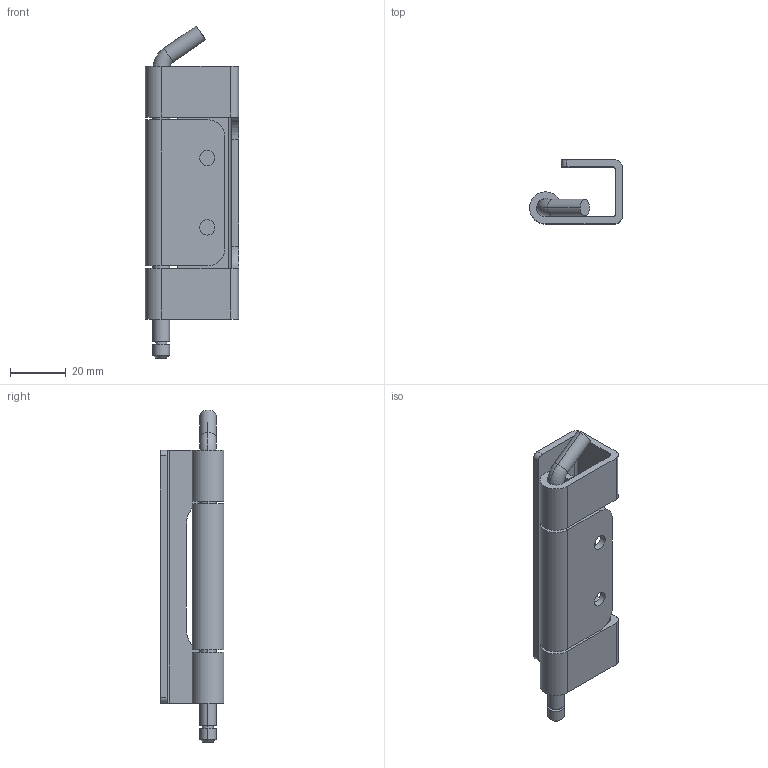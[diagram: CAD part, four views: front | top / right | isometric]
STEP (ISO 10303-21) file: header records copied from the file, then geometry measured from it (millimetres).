
FILE_DESCRIPTION (( 'STEP AP203' ), '1' );
FILE_NAME ('XG02-056-2.STEP', '2024-08-03T06:59:55', ( '' ), ( '' ), 'SwSTEP 2.0', 'SolidWorks 2020', '' );
FILE_SCHEMA (( 'CONFIG_CONTROL_DESIGN' ));
Length unit declared in the file: millimetre
Products named in the file (1): XG02-056-2
Bounding box: 33.5 x 23 x 119.53 mm (x, y, z)
Volume: 21499.1 mm3; surface area: 18900 mm2
Topology: 4 solids, 4 shells, 74 faces, 190 edges, 126 vertices
Faces by surface type: plane 36, cylinder 34, torus 2, cone 2
Entity records: 2361 total; most frequent: DIRECTION 408, CARTESIAN_POINT 403, ORIENTED_EDGE 380, EDGE_CURVE 190, AXIS2_PLACEMENT_3D 147, VERTEX_POINT 126, LINE 114, VECTOR 114
